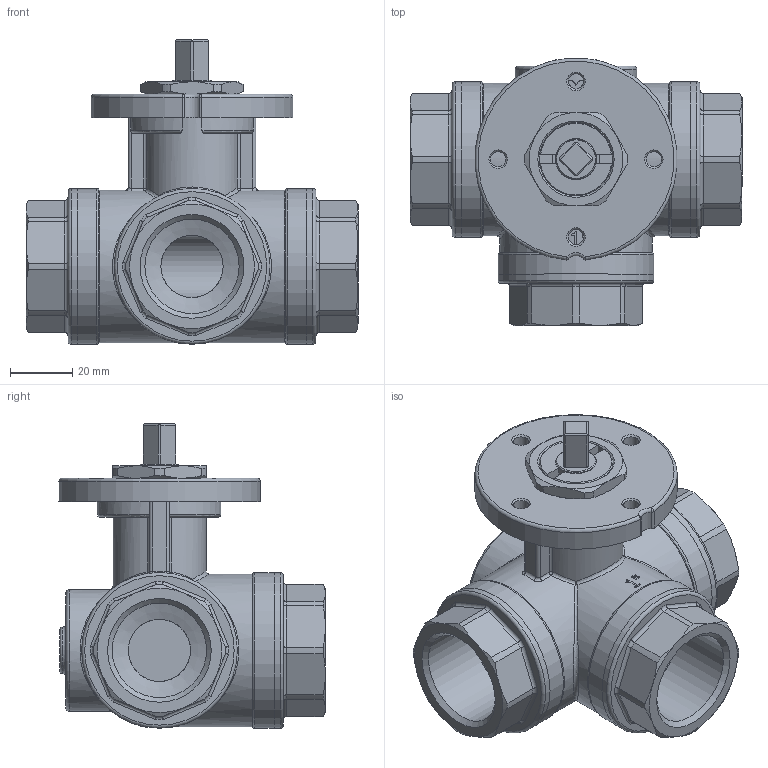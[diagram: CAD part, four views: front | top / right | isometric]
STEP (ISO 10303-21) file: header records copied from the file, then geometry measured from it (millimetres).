
FILE_DESCRIPTION((''),'2;1');
FILE_NAME('C:\Documents and Settings\ut4\Desktop\TICOM 16-11-11\Art.92 PM SM 001.stp','2011-11-17T10:18:56',('ut4'),(''),'Autodesk Inventor 2012','Autodesk Inventor 2012','');
FILE_SCHEMA(('AUTOMOTIVE_DESIGN { 1 0 10303 214 1 1 1 1 }'));
Length unit declared in the file: millimetre
Products named in the file (13): Art.92 PM SM 001; Corpo 3vie mot. 001; Sede 3vie 001 mot; O-ring 23.81 x 2; Manic. 3vie 001; Sfera 3vie for. L 001; Perno mot. 20 q8; Anello antigrip. perno mot. Ø20; O-ring 15.08 x 2; Boccola antigrip. perno mot. Ø20; Ghiera ferma asta mot. 25; Dado blocca piastra SM3; Dischetto portamotore SM Ø25 lav
Assembly tree (21 placements, depth 2):
  Art.92 PM SM 001
    Corpo 3vie mot. 001
    Sede 3vie 001 mot  x4
    O-ring 23.81 x 2  x4
    Manic. 3vie 001  x3
    Sfera 3vie for. L 001
    Perno mot. 20 q8
    Anello antigrip. perno mot. Ø20
    O-ring 15.08 x 2  x2
    Boccola antigrip. perno mot. Ø20
    Ghiera ferma asta mot. 25
    Dado blocca piastra SM3
    Dischetto portamotore SM Ø25 lav
Bounding box: 106.6 x 85.68 x 97.78 mm (x, y, z)
Volume: 200067.5 mm3; surface area: 103400.9 mm2
Topology: 21 solids, 21 shells, 687 faces, 1613 edges, 987 vertices
Faces by surface type: plane 243, cylinder 213, cone 84, torus 81, bspline 39, sphere 27
Full cylindrical faces by diameter (mm): 4.917 x4, 13 x1, 13.2 x2, 14.8 x1, 15.1 x1, 16 x1, 16.1 x2, 16.3 x2, 19.9 x3, 20 x11, 20.1 x1, 23 x1, 23.5 x6, 25 x2, 30 x7, 30.29 x3, 30.5 x1, 34.7 x3, 39 x1, 39.5 x2, 42.65 x3, 43.9 x3, 44.6 x3, 49 x2, 50 x6
Entity records: 17420 total; most frequent: CARTESIAN_POINT 4572, DIRECTION 2607, ORIENTED_EDGE 2366, EDGE_CURVE 1183, AXIS2_PLACEMENT_3D 1066, VERTEX_POINT 779, EDGE_LOOP 694, FACE_OUTER_BOUND 544
